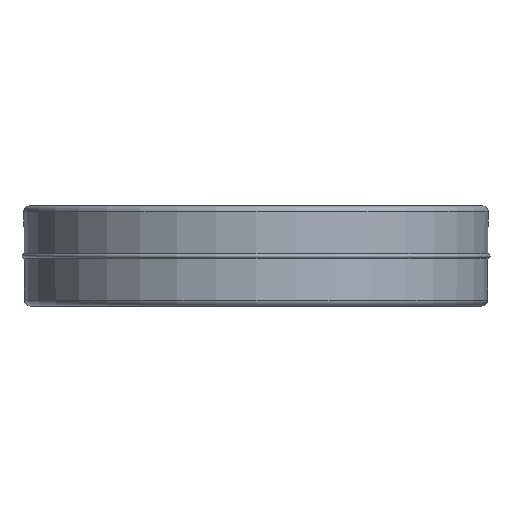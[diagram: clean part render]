
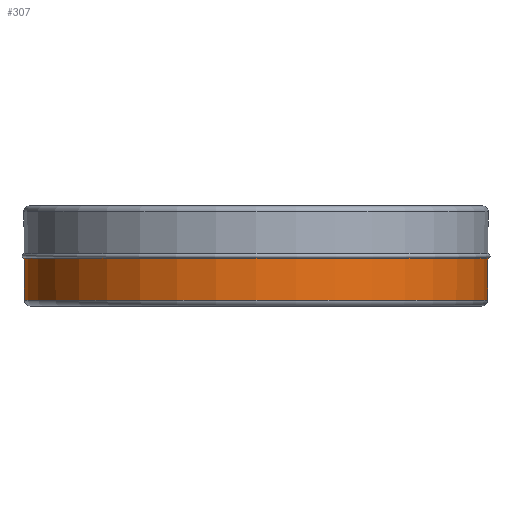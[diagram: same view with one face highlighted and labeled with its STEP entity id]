
A CAD part, front view. The second image highlights one B-rep face of the part: STEP entity #307.
In plain terms, the highlighted conical face has half-angle 0.279 degrees and reference radius 99.5 mm.
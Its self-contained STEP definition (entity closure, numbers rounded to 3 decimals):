
#29 = EDGE_CURVE ( 'NONE', #269, #226, #780, .T. ) ;
#43 = CARTESIAN_POINT ( 'NONE',  ( -99.412, 0., -38.012 ) ) ;
#52 = VECTOR ( 'NONE', #114, 1000. ) ;
#65 = FACE_OUTER_BOUND ( 'NONE', #489, .T. ) ;
#93 = DIRECTION ( 'NONE',  ( 1., 0., 0. ) ) ;
#114 = DIRECTION ( 'NONE',  ( -0.005, 0., 1. ) ) ;
#121 = CARTESIAN_POINT ( 'NONE',  ( -99.5, 0., -20. ) ) ;
#131 = DIRECTION ( 'NONE',  ( 1., 0., 0. ) ) ;
#147 = ORIENTED_EDGE ( 'NONE', *, *, #602, .T. ) ;
#172 = CARTESIAN_POINT ( 'NONE',  ( 0., 0., -20. ) ) ;
#178 = CONICAL_SURFACE ( 'NONE', #456, 99.5, 0.005 ) ;
#199 = CARTESIAN_POINT ( 'NONE',  ( 0., 0., -20. ) ) ;
#213 = ORIENTED_EDGE ( 'NONE', *, *, #564, .F. ) ;
#219 = ORIENTED_EDGE ( 'NONE', *, *, #846, .F. ) ;
#226 = VERTEX_POINT ( 'NONE', #505 ) ;
#236 = AXIS2_PLACEMENT_3D ( 'NONE', #172, #771, #93 ) ;
#267 = DIRECTION ( 'NONE',  ( 0., 0., 1. ) ) ;
#269 = VERTEX_POINT ( 'NONE', #43 ) ;
#307 = ADVANCED_FACE ( 'NONE', ( #65 ), #178, .T. ) ;
#319 = LINE ( 'NONE', #724, #727 ) ;
#420 = DIRECTION ( 'NONE',  ( 1., 0., 0. ) ) ;
#422 = VERTEX_POINT ( 'NONE', #546 ) ;
#454 = ORIENTED_EDGE ( 'NONE', *, *, #29, .T. ) ;
#456 = AXIS2_PLACEMENT_3D ( 'NONE', #199, #267, #131 ) ;
#459 = CARTESIAN_POINT ( 'NONE',  ( -99.5, 0., -20. ) ) ;
#489 = EDGE_LOOP ( 'NONE', ( #213, #454, #147, #219 ) ) ;
#505 = CARTESIAN_POINT ( 'NONE',  ( 99.412, 0., -38.012 ) ) ;
#546 = CARTESIAN_POINT ( 'NONE',  ( 99.5, 0., -20. ) ) ;
#553 = CARTESIAN_POINT ( 'NONE',  ( 0., 0., -38.012 ) ) ;
#564 = EDGE_CURVE ( 'NONE', #269, #693, #710, .T. ) ;
#602 = EDGE_CURVE ( 'NONE', #226, #422, #319, .T. ) ;
#656 = AXIS2_PLACEMENT_3D ( 'NONE', #553, #698, #420 ) ;
#693 = VERTEX_POINT ( 'NONE', #459 ) ;
#698 = DIRECTION ( 'NONE',  ( 0., 0., 1. ) ) ;
#710 = LINE ( 'NONE', #121, #52 ) ;
#724 = CARTESIAN_POINT ( 'NONE',  ( 99.5, 0., -20. ) ) ;
#727 = VECTOR ( 'NONE', #865, 1000. ) ;
#744 = CIRCLE ( 'NONE', #236, 99.5 ) ;
#771 = DIRECTION ( 'NONE',  ( 0., 0., 1. ) ) ;
#780 = CIRCLE ( 'NONE', #656, 99.412 ) ;
#846 = EDGE_CURVE ( 'NONE', #693, #422, #744, .T. ) ;
#865 = DIRECTION ( 'NONE',  ( 0.005, 0., 1. ) ) ;
